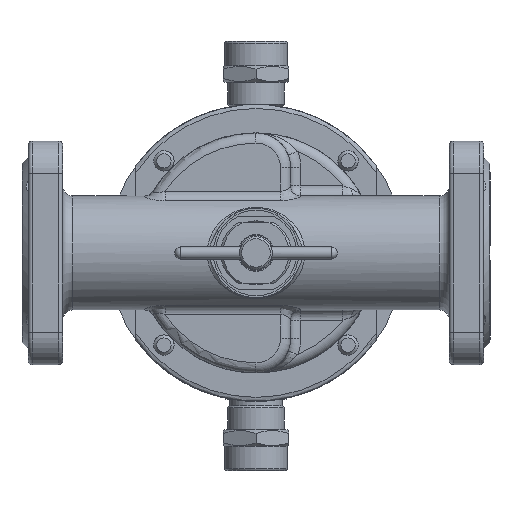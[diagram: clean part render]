
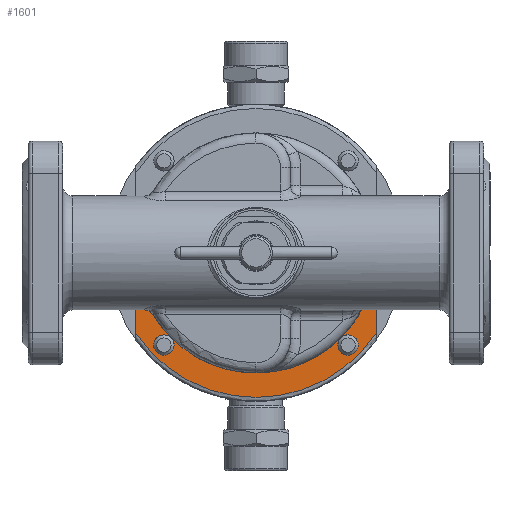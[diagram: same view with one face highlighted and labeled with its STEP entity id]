
A CAD part, front view. The second image highlights one B-rep face of the part: STEP entity #1601.
In plain terms, the highlighted planar face has unit normal (0, -1, 0).
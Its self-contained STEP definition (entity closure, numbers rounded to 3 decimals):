
#1601=ADVANCED_FACE('',(#17213),#17215,.F.);
#17213=FACE_OUTER_BOUND('',#17214,.T.);
#17214=EDGE_LOOP('',(#29701,#29702,#29703,#29704,#29705,#29706,#29707,#29708,#29709,
#29710));
#17215=PLANE('',#17216);
#17216=AXIS2_PLACEMENT_3D('',#17217,#17218,#17219);
#17217=CARTESIAN_POINT('',(0.,39.5,0.));
#17218=DIRECTION('',(0.,1.,0.));
#17219=DIRECTION('',(-1.,0.,0.));
#29701=ORIENTED_EDGE('',*,*,#37137,.F.);
#29702=ORIENTED_EDGE('',*,*,#37138,.F.);
#29703=ORIENTED_EDGE('',*,*,#37139,.F.);
#29704=ORIENTED_EDGE('',*,*,#37116,.F.);
#29705=ORIENTED_EDGE('',*,*,#37140,.F.);
#29706=ORIENTED_EDGE('',*,*,#37110,.F.);
#29707=ORIENTED_EDGE('',*,*,#37141,.F.);
#29708=ORIENTED_EDGE('',*,*,#37142,.F.);
#29709=ORIENTED_EDGE('',*,*,#37143,.F.);
#29710=ORIENTED_EDGE('',*,*,#37144,.F.);
#37110=EDGE_CURVE('',#44768,#44770,#44771,.T.);
#37116=EDGE_CURVE('',#44778,#44780,#44781,.T.);
#37137=EDGE_CURVE('',#44814,#44815,#44816,.T.);
#37138=EDGE_CURVE('',#44815,#44814,#44817,.T.);
#37139=EDGE_CURVE('',#44780,#44815,#44818,.T.);
#37140=EDGE_CURVE('',#44770,#44778,#44819,.T.);
#37141=EDGE_CURVE('',#44820,#44768,#44821,.T.);
#37142=EDGE_CURVE('',#44822,#44820,#44823,.T.);
#37143=EDGE_CURVE('',#44820,#44822,#44824,.T.);
#37144=EDGE_CURVE('',#44815,#44820,#44825,.T.);
#44768=VERTEX_POINT('',#67999);
#44770=VERTEX_POINT('',#68003);
#44771=LINE('',#68004,#68005);
#44778=VERTEX_POINT('',#68074);
#44780=VERTEX_POINT('',#68130);
#44781=LINE('',#68131,#68132);
#44814=VERTEX_POINT('',#68273);
#44815=VERTEX_POINT('',#68274);
#44816=CIRCLE('',#68275,5.);
#44817=CIRCLE('',#68279,5.);
#44818=CIRCLE('',#68283,59.);
#44819=CIRCLE('',#68287,71.);
#44820=VERTEX_POINT('',#68291);
#44821=CIRCLE('',#68292,59.);
#44822=VERTEX_POINT('',#68296);
#44823=CIRCLE('',#68297,5.);
#44824=CIRCLE('',#68301,5.);
#44825=CIRCLE('',#68305,59.);
#67999=CARTESIAN_POINT('',(59.,39.5,0.));
#68003=CARTESIAN_POINT('',(59.,39.5,-39.497));
#68004=CARTESIAN_POINT('',(59.,39.5,0.));
#68005=VECTOR('',#68006,1.);
#68006=DIRECTION('',(0.,0.,-1.));
#68074=CARTESIAN_POINT('',(-59.,39.5,-39.497));
#68130=CARTESIAN_POINT('',(-59.,39.5,0.));
#68131=CARTESIAN_POINT('',(-59.,39.5,-39.497));
#68132=VECTOR('',#68133,1.);
#68133=DIRECTION('',(0.,0.,1.));
#68273=CARTESIAN_POINT('',(-45.255,39.5,-50.255));
#68274=CARTESIAN_POINT('',(-41.719,39.5,-41.719));
#68275=AXIS2_PLACEMENT_3D('',#68276,#68277,#68278);
#68276=CARTESIAN_POINT('',(-45.255,39.5,-45.255));
#68277=DIRECTION('',(0.,-1.,0.));
#68278=DIRECTION('',(0.,0.,-1.));
#68279=AXIS2_PLACEMENT_3D('',#68280,#68281,#68282);
#68280=CARTESIAN_POINT('',(-45.255,39.5,-45.255));
#68281=DIRECTION('',(0.,-1.,0.));
#68282=DIRECTION('',(0.707,0.,0.707));
#68283=AXIS2_PLACEMENT_3D('',#68284,#68285,#68286);
#68284=CARTESIAN_POINT('',(0.,39.5,0.));
#68285=DIRECTION('',(0.,-1.,0.));
#68286=DIRECTION('',(-1.,0.,0.));
#68287=AXIS2_PLACEMENT_3D('',#68288,#68289,#68290);
#68288=CARTESIAN_POINT('',(0.,39.5,0.));
#68289=DIRECTION('',(0.,1.,0.));
#68290=DIRECTION('',(0.831,0.,-0.556));
#68291=CARTESIAN_POINT('',(41.719,39.5,-41.719));
#68292=AXIS2_PLACEMENT_3D('',#68293,#68294,#68295);
#68293=CARTESIAN_POINT('',(0.,39.5,0.));
#68294=DIRECTION('',(0.,-1.,0.));
#68295=DIRECTION('',(0.707,0.,-0.707));
#68296=CARTESIAN_POINT('',(50.255,39.5,-45.255));
#68297=AXIS2_PLACEMENT_3D('',#68298,#68299,#68300);
#68298=CARTESIAN_POINT('',(45.255,39.5,-45.255));
#68299=DIRECTION('',(0.,-1.,0.));
#68300=DIRECTION('',(1.,0.,0.));
#68301=AXIS2_PLACEMENT_3D('',#68302,#68303,#68304);
#68302=CARTESIAN_POINT('',(45.255,39.5,-45.255));
#68303=DIRECTION('',(0.,-1.,0.));
#68304=DIRECTION('',(-0.707,0.,0.707));
#68305=AXIS2_PLACEMENT_3D('',#68306,#68307,#68308);
#68306=CARTESIAN_POINT('',(0.,39.5,0.));
#68307=DIRECTION('',(0.,-1.,0.));
#68308=DIRECTION('',(-0.707,0.,-0.707));
